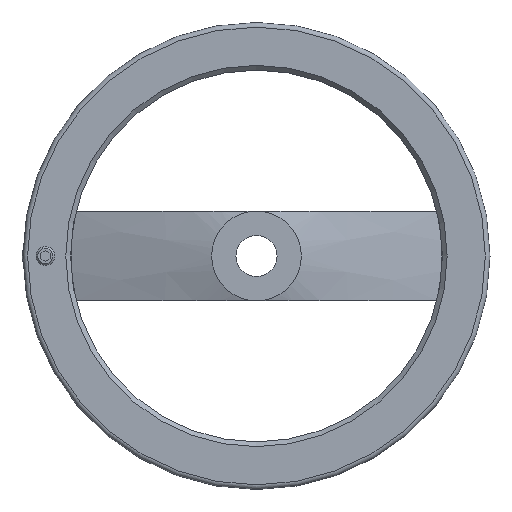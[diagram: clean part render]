
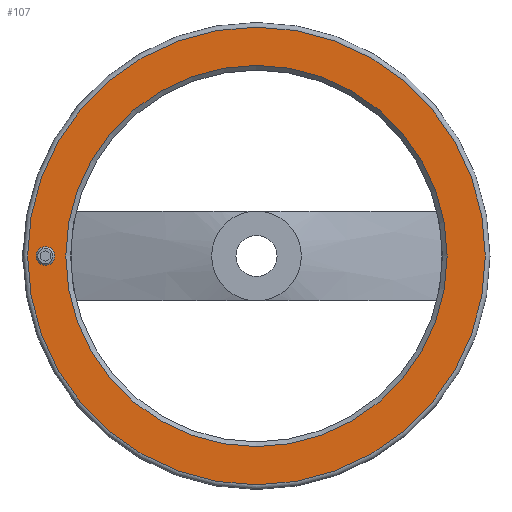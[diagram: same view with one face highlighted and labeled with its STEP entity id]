
A CAD part, left-side view. The second image highlights one B-rep face of the part: STEP entity #107.
In plain terms, the highlighted planar face has unit normal (-1, 0, 0).
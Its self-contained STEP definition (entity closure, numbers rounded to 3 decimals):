
#107 = ADVANCED_FACE( '', ( #200, #201, #202 ), #203, .T. );
#200 = FACE_OUTER_BOUND( '', #337, .T. );
#201 = FACE_BOUND( '', #338, .T. );
#202 = FACE_BOUND( '', #339, .T. );
#203 = PLANE( '', #340 );
#337 = EDGE_LOOP( '', ( #556 ) );
#338 = EDGE_LOOP( '', ( #557 ) );
#339 = EDGE_LOOP( '', ( #558 ) );
#340 = AXIS2_PLACEMENT_3D( '', #559, #560, #561 );
#556 = ORIENTED_EDGE( '', *, *, #659, .T. );
#557 = ORIENTED_EDGE( '', *, *, #626, .T. );
#558 = ORIENTED_EDGE( '', *, *, #660, .F. );
#559 = CARTESIAN_POINT( '', ( 28., -102.056, 0. ) );
#560 = DIRECTION( '', ( -1., 0., 0. ) );
#561 = DIRECTION( '', ( 0., 0., 1. ) );
#626 = EDGE_CURVE( '', #730, #730, #731, .T. );
#659 = EDGE_CURVE( '', #783, #783, #784, .T. );
#660 = EDGE_CURVE( '', #785, #785, #786, .T. );
#730 = VERTEX_POINT( '', #1006 );
#731 = CIRCLE( '', #1007, 5. );
#783 = VERTEX_POINT( '', #1071 );
#784 = CIRCLE( '', #1072, 122.5 );
#785 = VERTEX_POINT( '', #1073 );
#786 = CIRCLE( '', #1074, 102.056 );
#1006 = CARTESIAN_POINT( '', ( 28., 113., -5. ) );
#1007 = AXIS2_PLACEMENT_3D( '', #1117, #1118, #1119 );
#1071 = CARTESIAN_POINT( '', ( 28., 0., 122.5 ) );
#1072 = AXIS2_PLACEMENT_3D( '', #1189, #1190, #1191 );
#1073 = CARTESIAN_POINT( '', ( 28., 0., 102.056 ) );
#1074 = AXIS2_PLACEMENT_3D( '', #1192, #1193, #1194 );
#1117 = CARTESIAN_POINT( '', ( 28., 113., 0. ) );
#1118 = DIRECTION( '', ( 1., 0., 0. ) );
#1119 = DIRECTION( '', ( 0., 0., -1. ) );
#1189 = CARTESIAN_POINT( '', ( 28., 0., 0. ) );
#1190 = DIRECTION( '', ( -1., 0., 0. ) );
#1191 = DIRECTION( '', ( 0., 0., 1. ) );
#1192 = CARTESIAN_POINT( '', ( 28., 0., 0. ) );
#1193 = DIRECTION( '', ( -1., 0., 0. ) );
#1194 = DIRECTION( '', ( 0., 0., 1. ) );
